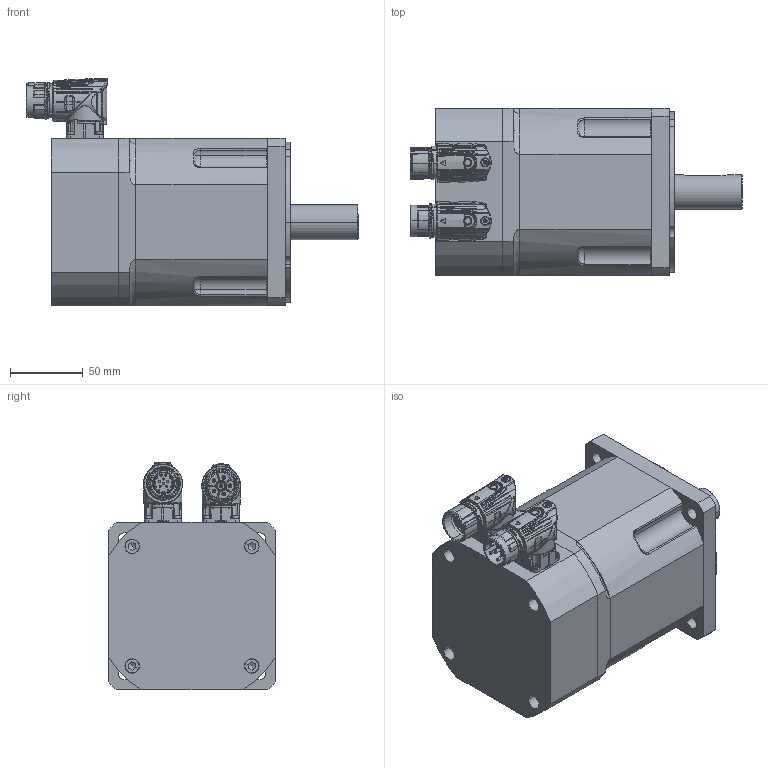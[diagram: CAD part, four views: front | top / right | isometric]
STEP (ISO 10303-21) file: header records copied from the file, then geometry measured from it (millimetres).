
FILE_DESCRIPTION(('CATIA V5 STEP Exchange'),'2;1');
FILE_NAME('C:\Documents and Settings\max\Documenti\sangallimotori\3d step\tg4\motore_DSM5_41.stp','2010-12-12T18:00:07+00:00',('none'),('none'),'CATIA Version 5 Release 10 (IN-8)','CATIA V5 STEP AP203',' none');
FILE_SCHEMA(('CONFIG_CONTROL_DESIGN'));
Assembly tree (27 placements, depth 0):
Bounding box: 227.81 x 115 x 156.43 mm (x, y, z)
Volume: 1936942.9 mm3; surface area: 205251 mm2
Topology: 23 solids, 28 shells, 4113 faces, 13945 edges, 9848 vertices
Faces by surface type: cylinder 1492, bspline 1326, plane 593, torus 360, cone 233, sphere 109
Entity records: 254620 total; most frequent: CARTESIAN_POINT 164650, ORIENTED_EDGE 25470, EDGE_CURVE 12792, VERTEX_POINT 9198, DIRECTION 8767, B_SPLINE_CURVE_WITH_KNOTS 7914, AXIS2_PLACEMENT_3D 4390, EDGE_LOOP 3819
